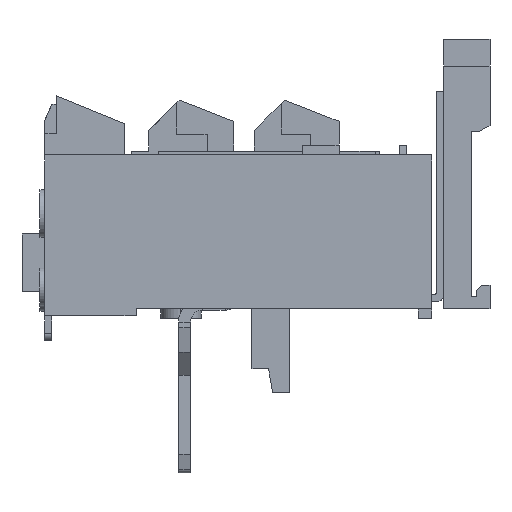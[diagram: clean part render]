
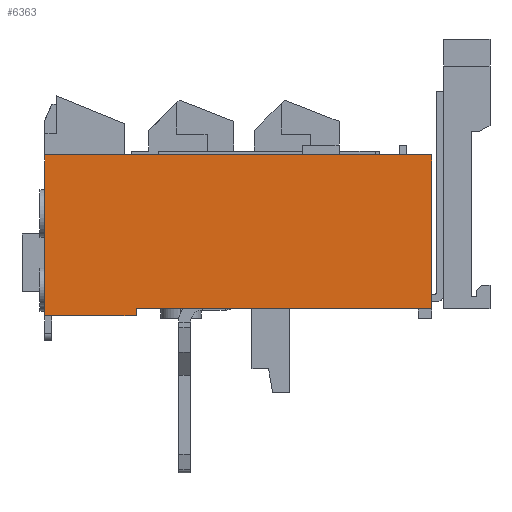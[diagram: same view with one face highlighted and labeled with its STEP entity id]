
A CAD part, left-side view. The second image highlights one B-rep face of the part: STEP entity #6363.
In plain terms, the highlighted planar face has unit normal (-1, 0, 0).
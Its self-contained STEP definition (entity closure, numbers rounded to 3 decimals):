
#126 = ORIENTED_EDGE ( 'NONE', *, *, #6098, .F. ) ;
#264 = AXIS2_PLACEMENT_3D ( 'NONE', #5678, #979, #6445 ) ;
#388 = VECTOR ( 'NONE', #8226, 1000. ) ;
#616 = VECTOR ( 'NONE', #1785, 1000. ) ;
#979 = DIRECTION ( 'NONE',  ( 1., 0., 0. ) ) ;
#1012 = EDGE_LOOP ( 'NONE', ( #7592, #6662, #126, #6175, #8249, #6290, #9929, #2689 ) ) ;
#1069 = LINE ( 'NONE', #3502, #6824 ) ;
#1119 = LINE ( 'NONE', #6004, #8723 ) ;
#1243 = VERTEX_POINT ( 'NONE', #7420 ) ;
#1785 = DIRECTION ( 'NONE',  ( 0., 0., 1. ) ) ;
#1963 = DIRECTION ( 'NONE',  ( 0., -1., 0. ) ) ;
#2011 = CARTESIAN_POINT ( 'NONE',  ( -33.6, 62.5, -17.75 ) ) ;
#2119 = CARTESIAN_POINT ( 'NONE',  ( -33.6, 7.3, 16.25 ) ) ;
#2689 = ORIENTED_EDGE ( 'NONE', *, *, #10084, .T. ) ;
#2748 = LINE ( 'NONE', #5667, #616 ) ;
#3112 = CARTESIAN_POINT ( 'NONE',  ( -33.6, 62.5, -16.25 ) ) ;
#3502 = CARTESIAN_POINT ( 'NONE',  ( -33.6, 0., 16.25 ) ) ;
#3618 = CARTESIAN_POINT ( 'NONE',  ( -33.6, 5.3, 16.25 ) ) ;
#3703 = LINE ( 'NONE', #7846, #5079 ) ;
#3817 = VERTEX_POINT ( 'NONE', #3112 ) ;
#4059 = CARTESIAN_POINT ( 'NONE',  ( -33.6, 62.5, -17.75 ) ) ;
#4114 = DIRECTION ( 'NONE',  ( 0., 0., 1. ) ) ;
#4164 = EDGE_CURVE ( 'NONE', #6099, #1243, #5383, .T. ) ;
#4568 = LINE ( 'NONE', #2011, #388 ) ;
#4719 = CARTESIAN_POINT ( 'NONE',  ( -33.6, 81.8, -17.75 ) ) ;
#4779 = EDGE_CURVE ( 'NONE', #5568, #6099, #7754, .T. ) ;
#5079 = VECTOR ( 'NONE', #7507, 1000. ) ;
#5216 = DIRECTION ( 'NONE',  ( 0., -1., 0. ) ) ;
#5383 = LINE ( 'NONE', #6603, #9649 ) ;
#5568 = VERTEX_POINT ( 'NONE', #5982 ) ;
#5610 = VERTEX_POINT ( 'NONE', #9225 ) ;
#5667 = CARTESIAN_POINT ( 'NONE',  ( -33.6, 81.8, 16.25 ) ) ;
#5678 = CARTESIAN_POINT ( 'NONE',  ( -33.6, 81.8, 16.25 ) ) ;
#5806 = FACE_OUTER_BOUND ( 'NONE', #1012, .T. ) ;
#5847 = VERTEX_POINT ( 'NONE', #4719 ) ;
#5884 = DIRECTION ( 'NONE',  ( 0., 0., 1. ) ) ;
#5982 = CARTESIAN_POINT ( 'NONE',  ( -33.6, 6.8, 16.25 ) ) ;
#6004 = CARTESIAN_POINT ( 'NONE',  ( -33.6, 81.8, 16.25 ) ) ;
#6098 = EDGE_CURVE ( 'NONE', #5610, #5568, #1119, .T. ) ;
#6099 = VERTEX_POINT ( 'NONE', #3618 ) ;
#6175 = ORIENTED_EDGE ( 'NONE', *, *, #7017, .F. ) ;
#6290 = ORIENTED_EDGE ( 'NONE', *, *, #9587, .T. ) ;
#6363 = ADVANCED_FACE ( 'NONE', ( #5806 ), #9681, .F. ) ;
#6445 = DIRECTION ( 'NONE',  ( 0., 0., -1. ) ) ;
#6468 = VECTOR ( 'NONE', #4114, 1000. ) ;
#6603 = CARTESIAN_POINT ( 'NONE',  ( -33.6, 81.8, 16.25 ) ) ;
#6662 = ORIENTED_EDGE ( 'NONE', *, *, #4779, .F. ) ;
#6764 = DIRECTION ( 'NONE',  ( 0., -1., 0. ) ) ;
#6824 = VECTOR ( 'NONE', #5884, 1000. ) ;
#6951 = LINE ( 'NONE', #8037, #6468 ) ;
#6984 = VERTEX_POINT ( 'NONE', #4059 ) ;
#7017 = EDGE_CURVE ( 'NONE', #5847, #5610, #2748, .T. ) ;
#7420 = CARTESIAN_POINT ( 'NONE',  ( -33.6, 0., 16.25 ) ) ;
#7507 = DIRECTION ( 'NONE',  ( 0., -1., 0. ) ) ;
#7592 = ORIENTED_EDGE ( 'NONE', *, *, #4164, .F. ) ;
#7754 = LINE ( 'NONE', #2119, #9431 ) ;
#7846 = CARTESIAN_POINT ( 'NONE',  ( -33.6, 81.8, -16.25 ) ) ;
#8037 = CARTESIAN_POINT ( 'NONE',  ( -33.6, 62.5, -17.75 ) ) ;
#8059 = EDGE_CURVE ( 'NONE', #6984, #5847, #4568, .T. ) ;
#8226 = DIRECTION ( 'NONE',  ( 0., 1., 0. ) ) ;
#8249 = ORIENTED_EDGE ( 'NONE', *, *, #8059, .F. ) ;
#8341 = EDGE_CURVE ( 'NONE', #3817, #8882, #3703, .T. ) ;
#8723 = VECTOR ( 'NONE', #5216, 1000. ) ;
#8882 = VERTEX_POINT ( 'NONE', #9960 ) ;
#9225 = CARTESIAN_POINT ( 'NONE',  ( -33.6, 81.8, 16.25 ) ) ;
#9431 = VECTOR ( 'NONE', #6764, 1000. ) ;
#9587 = EDGE_CURVE ( 'NONE', #6984, #3817, #6951, .T. ) ;
#9649 = VECTOR ( 'NONE', #1963, 1000. ) ;
#9681 = PLANE ( 'NONE',  #264 ) ;
#9929 = ORIENTED_EDGE ( 'NONE', *, *, #8341, .T. ) ;
#9960 = CARTESIAN_POINT ( 'NONE',  ( -33.6, 0., -16.25 ) ) ;
#10084 = EDGE_CURVE ( 'NONE', #8882, #1243, #1069, .T. ) ;
